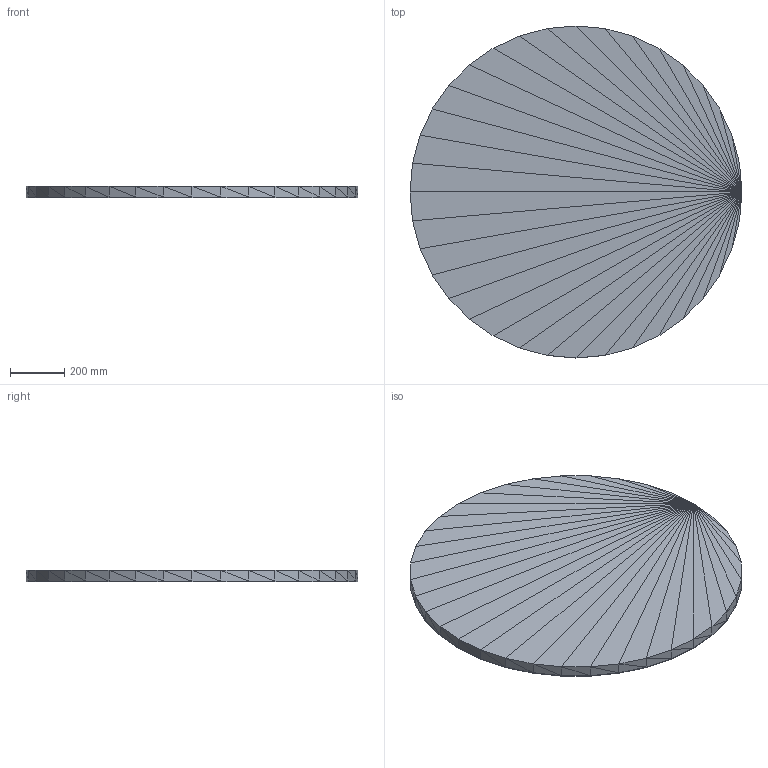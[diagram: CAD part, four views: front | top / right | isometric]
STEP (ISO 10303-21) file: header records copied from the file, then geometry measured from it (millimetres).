
FILE_DESCRIPTION(('ISINAC STEP AP214'),'2;1');
FILE_NAME('ISINAC_CIR.1220_40mm_IMANTADA','2026-05-03T10:49:20',('ISINAC'),('www.isinac.com'),'ISINAC BIM Generator 1.0','','');
FILE_SCHEMA(('AUTOMOTIVE_DESIGN'));
Length unit declared in the file: millimetre
Products named in the file (1): ISINAC_CIR.1220_40mm_IMANTADA
Bounding box: 1220 x 1220 x 42 mm (x, y, z)
Surface area: 4813013.8 mm2 (no closed solid volume)
Topology: 0 solids, 280 shells, 280 faces, 840 edges, 840 vertices
Faces by surface type: plane 280
Entity records: 3093 total; most frequent: CARTESIAN_POINT 1120, DIRECTION 560, POLY_LOOP 280, FACE_OUTER_BOUND 280, AXIS2_PLACEMENT_3D 280, PLANE 280, FACE_SURFACE 280, CLOSED_SHELL 1
